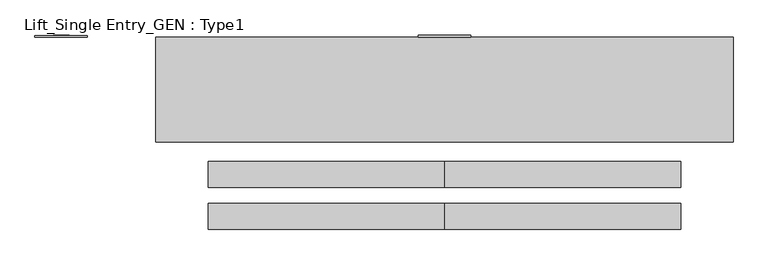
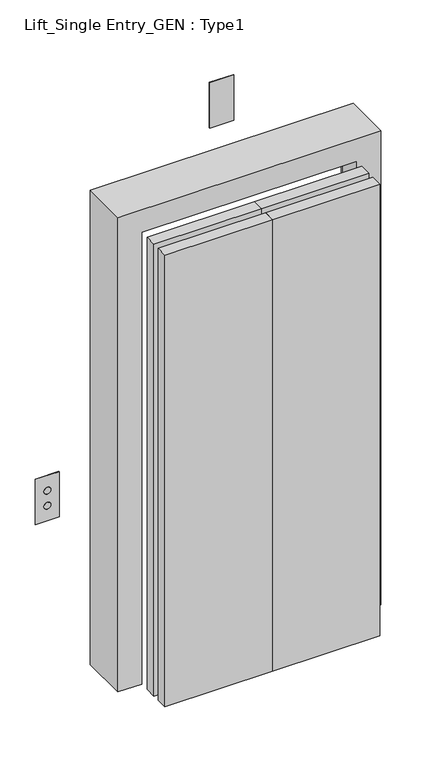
"""IFC4 building model written with IfcOpenShell, lengths in millimetres: proxy geometry, Lift_Single Entry_GEN : Type1."""

from ifc_helpers import new_model, si_unit, point, frame, frame_2d, origin, origin_with_axes, place, context, project, spatial, polyline, circle_curve, trimmed, segment, composite_curve, outline, extrude, faceted_brep, source, transform, mapped, element, save


def lift_single_entry_gen_type1_efb82ba8(model_context):
    return source(origin(), model_context, "Body", "SolidModel", [
        extrude(outline(polyline([(253.9142846, 100.0), (153.9142846, 100.0), (153.9142846, 103.0), (253.9142846, 103.0), (253.9142846, 100.0)])), frame((0.0, 0.0, 2200.0), z_axis=(0.0, 0.0, 1.0), x_axis=(1.0, 0.0, 0.0)), (0.0, 0.0, 1.0), 200.0),
        extrude(outline(composite_curve([segment(trimmed(circle_curve(frame_2d((833.3333333, -526.0857154)), 15.0), [point((833.3333333, -541.0857154))], [point((833.3333333, -511.0857154))], False, "CARTESIAN"), True, "CONTINUOUS"), segment(trimmed(circle_curve(frame_2d((833.3333333, -526.0857154)), 15.0), [point((833.3333333, -511.0857154))], [point((833.3333333, -541.0857154))], False, "CARTESIAN"), True, "CONTINUOUS")], self_intersect=False)), frame((0.0, 100.0, 0.0), z_axis=(0.0, 1.0, 0.0), x_axis=(0.0, 0.0, 1.0)), (0.0, 0.0, 1.0), 4.0),
        extrude(outline(composite_curve([segment(trimmed(circle_curve(frame_2d((766.6666667, -526.0857154)), 15.0), [point((766.6666667, -541.0857154))], [point((766.6666667, -511.0857154))], False, "CARTESIAN"), True, "CONTINUOUS"), segment(trimmed(circle_curve(frame_2d((766.6666667, -526.0857154)), 15.0), [point((766.6666667, -511.0857154))], [point((766.6666667, -541.0857154))], False, "CARTESIAN"), True, "CONTINUOUS")], self_intersect=False)), frame((0.0, 100.0, 0.0), z_axis=(0.0, 1.0, 0.0), x_axis=(0.0, 0.0, 1.0)), (0.0, 0.0, 1.0), 4.0),
        extrude(outline(polyline([(900.0, -576.0857154), (700.0, -576.0857154), (700.0, -476.0857154), (900.0, -476.0857154), (900.0, -576.0857154)]), holes=[composite_curve([segment(trimmed(circle_curve(frame_2d((833.3333333, -526.0857154)), 15.0), [point((833.3333333, -541.0857154))], [point((833.3333333, -511.0857154))], True, "CARTESIAN"), True, "CONTINUOUS"), segment(trimmed(circle_curve(frame_2d((833.3333333, -526.0857154)), 15.0), [point((833.3333333, -511.0857154))], [point((833.3333333, -541.0857154))], True, "CARTESIAN"), True, "CONTINUOUS")], self_intersect=False), composite_curve([segment(trimmed(circle_curve(frame_2d((766.6666667, -526.0857154)), 15.0), [point((766.6666667, -541.0857154))], [point((766.6666667, -511.0857154))], True, "CARTESIAN"), True, "CONTINUOUS"), segment(trimmed(circle_curve(frame_2d((766.6666667, -526.0857154)), 15.0), [point((766.6666667, -511.0857154))], [point((766.6666667, -541.0857154))], True, "CARTESIAN"), True, "CONTINUOUS")], self_intersect=False)]), frame((0.0, 100.0, 0.0), z_axis=(0.0, 1.0, 0.0), x_axis=(0.0, 0.0, 1.0)), (0.0, 0.0, 1.0), 3.0),
        extrude(outline(polyline([(-246.0857154, -217.5), (203.9142846, -217.5), (203.9142846, -267.5), (-246.0857154, -267.5), (-246.0857154, -217.5)])), origin_with_axes(), (0.0, 0.0, 1.0), 2000.0),
        extrude(outline(polyline([(653.9142846, -217.5), (653.9142846, -267.5), (203.9142846, -267.5), (203.9142846, -217.5), (653.9142846, -217.5)])), origin_with_axes(), (0.0, 0.0, 1.0), 2000.0),
        extrude(outline(polyline([(-246.0857154, -137.5), (203.9142846, -137.5), (203.9142846, -187.5), (-246.0857154, -187.5), (-246.0857154, -137.5)])), origin_with_axes(), (0.0, 0.0, 1.0), 2000.0),
        extrude(outline(polyline([(653.9142846, -137.5), (653.9142846, -187.5), (203.9142846, -187.5), (203.9142846, -137.5), (653.9142846, -137.5)])), origin_with_axes(), (0.0, 0.0, 1.0), 2000.0),
        faceted_brep([(-346.0857154, -100.0, 0.0), (-346.0857154, 100.0, 0.0), (-296.0857154, 100.0, 0.0), (-296.0857154, 0.0, 0.0), (-246.0857154, 0.0, 0.0), (-246.0857154, -100.0, 0.0), (-346.0857154, -100.0, 2100.0), (-346.0857154, 100.0, 2100.0), (753.9142846, 100.0, 2100.0), (753.9142846, 100.0, 0.0), (703.9142846, 100.0, 0.0), (703.9142846, 100.0, 2050.0), (-296.0857154, 100.0, 2050.0), (-296.0857154, 0.0, 2050.0), (703.9142846, 0.0, 2050.0), (703.9142846, 0.0, 0.0), (653.9142846, 0.0, 0.0), (653.9142846, 0.0, 2000.0), (-246.0857154, 0.0, 2000.0), (-246.0857154, -100.0, 2000.0), (653.9142846, -100.0, 2000.0), (653.9142846, -100.0, 0.0), (753.9142846, -100.0, 0.0), (753.9142846, -100.0, 2100.0)], [[[0, 1, 2, 3, 4, 5]], [[1, 0, 6, 7]], [[2, 1, 7, 8, 9, 10, 11, 12]], [[3, 2, 12, 13]], [[4, 3, 13, 14, 15, 16, 17, 18]], [[5, 4, 18, 19]], [[0, 5, 19, 20, 21, 22, 23, 6]], [[7, 6, 23, 8]], [[13, 12, 11, 14]], [[19, 18, 17, 20]], [[22, 21, 16, 15, 10, 9]], [[8, 23, 22, 9]], [[14, 11, 10, 15]], [[20, 17, 16, 21]]]),
    ])


if __name__ == "__main__":
    model = new_model("IFC4")
    model_context = context("Model", 3, world=origin())
    ifc_project = project(units=[si_unit("LENGTHUNIT", "METRE", prefix="MILLI")], contexts=[model_context])
    site = spatial("IfcSite", under=ifc_project)
    building = spatial("IfcBuilding", under=site)
    placement = place(None, origin())
    lift_single_entry_gen_type1_shape = lift_single_entry_gen_type1_efb82ba8(model_context)
    element("IfcBuildingElementProxy", 1, Name="Lift_Single Entry_GEN : Type1", ObjectType="Lift_Single Entry_GEN : Type1", at=placement, inside=building, context=model_context, shape_type="MappedRepresentation", body=[
        mapped(lift_single_entry_gen_type1_shape, transform((0.0, 0.0, 0.0), x_axis=(1.0, 0.0, 0.0), y_axis=(0.0, 1.0, 0.0), z_axis=(0.0, 0.0, 1.0))),
    ])
    save(model, "model.ifc")
